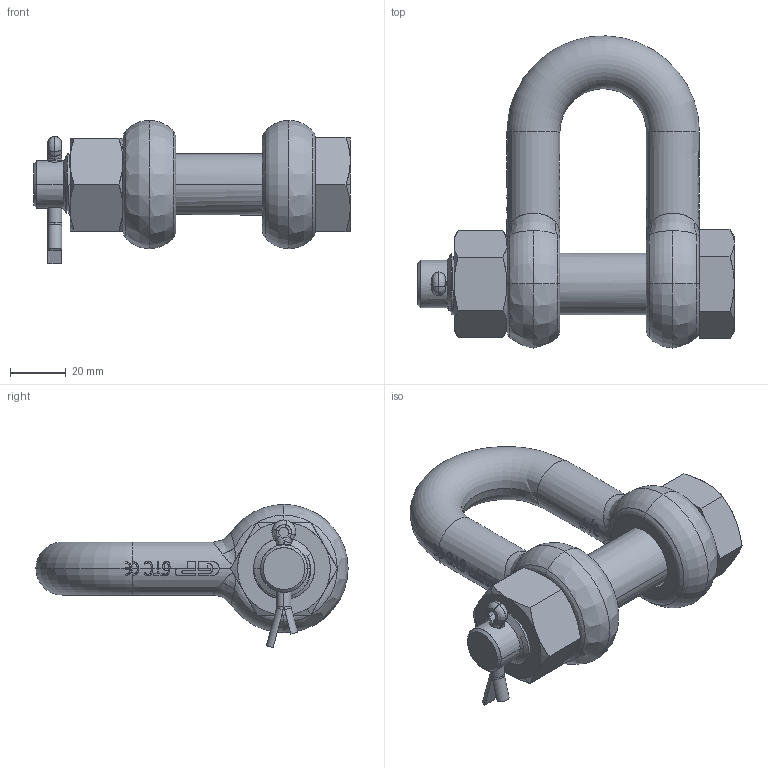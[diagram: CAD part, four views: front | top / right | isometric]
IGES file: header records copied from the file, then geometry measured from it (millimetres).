
Start section: START RECORD GO HERE.
Global section: file name: 4,75.igs; native system: Solidworks 2009      A Version 5 Release 17 ; preprocessor: Solidworks                 ; author: v.b.; organization: P4; date: 20090807.084218; units: millimetre
Bounding box: 113.5 x 111.98 x 51.32 mm (x, y, z)
Surface area: 37148.9 mm2 (no closed solid volume)
Topology: 0 solids, 0 shells, 707 faces, 4434 edges, 4426 vertices
Faces by surface type: plane 257, bspline 252, revolution 198
